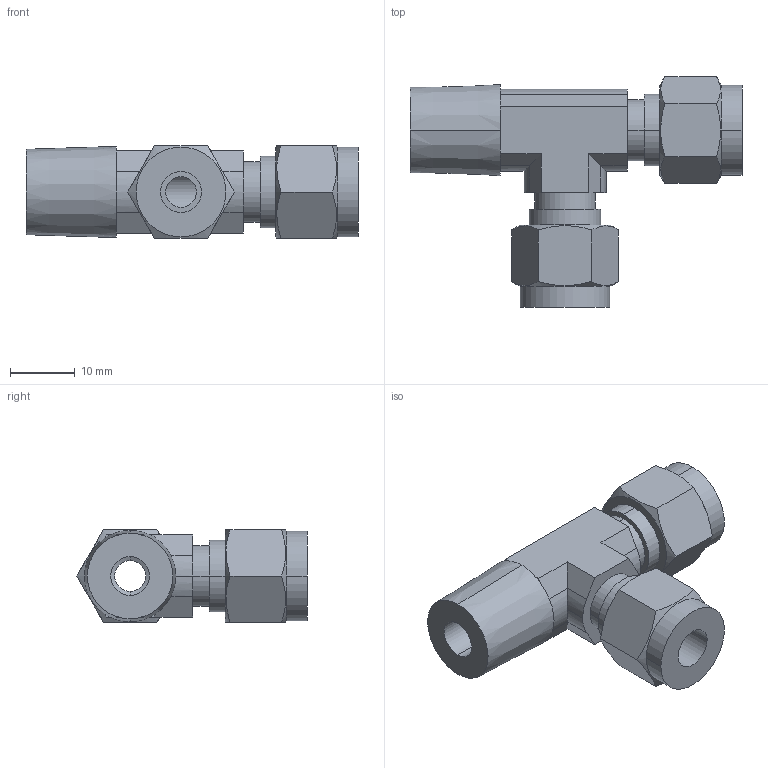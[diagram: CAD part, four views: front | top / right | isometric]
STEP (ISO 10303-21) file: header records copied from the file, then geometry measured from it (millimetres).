
FILE_DESCRIPTION (( 'STEP AP203' ), '1' );
FILE_NAME ('DTK 04-04 SS.STEP', '2009-09-08T10:03:04', ( ' ' ), ( '' ), 'SwSTEP 2.0', 'SolidWorks 2008', '' );
FILE_SCHEMA (( 'CONFIG_CONTROL_DESIGN' ));
Length unit declared in the file: millimetre
Products named in the file (1): DTK 04-04 SS
Bounding box: 51.4 x 35.65 x 14.29 mm (x, y, z)
Volume: 8363.1 mm3; surface area: 5180.5 mm2
Topology: 1 solids, 1 shells, 83 faces, 201 edges, 128 vertices
Faces by surface type: plane 43, cylinder 28, cone 12
Entity records: 2755 total; most frequent: CARTESIAN_POINT 742, ORIENTED_EDGE 402, DIRECTION 399, EDGE_CURVE 201, AXIS2_PLACEMENT_3D 151, VERTEX_POINT 128, VECTOR 97, LINE 97
